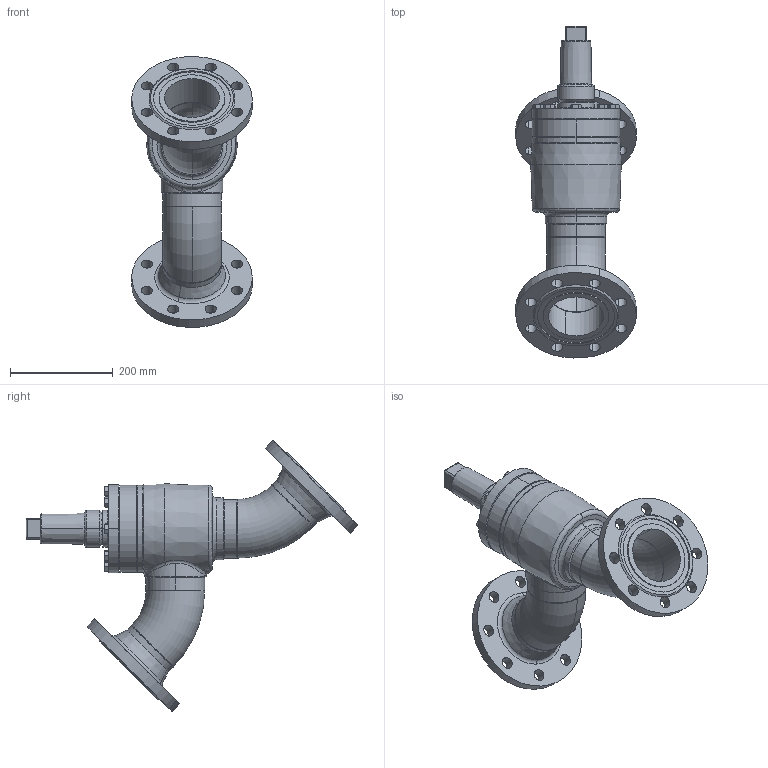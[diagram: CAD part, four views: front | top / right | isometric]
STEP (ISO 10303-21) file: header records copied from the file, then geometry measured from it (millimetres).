
FILE_DESCRIPTION (( 'STEP AP214' ), '1' );
FILE_NAME ('HRAB12320D19-DN100_DIN-FL-N_PS40.STEP', '2007-01-08T07:24:31', ( 'Herr Grams' ), ( 'AWP GmbH' ), 'SwSTEP 2.0', 'SolidWorks 2002296', '' );
FILE_SCHEMA (( 'AUTOMOTIVE_DESIGN' ));
Length unit declared in the file: millimetre
Products named in the file (17): HRAB12320D19-DN100_DIN-FL-N_PS40; AVB16300E19_Deck+Schr-DN100_Standard; Deckel16300E19-DN100_Standard; Sechskantschraube-DIN933_M12x 35; Kappe16402_DN080-100_Standard; Gehäuse-kpl16320-DN100_DIN_PS40_Standard; Gehäuse-kpl16300-DN100_R1_Standard; Gehäuse-kpl16400-DN100_R1_Standard; bead-DN100-1_Standard; Gehäuse16400-DN100_Standard; Kopfstück16300-DN100_Standard; Rohrbogen 45°_Rohrbogen-DN100-45°; bead-DN100-3_Standard; bead-DN100-2_Standard; bead-DN100-6_Standard; bead-DN100-7_Standard; Flansch-DIN-Nut_PS40_DIN-Flansch-DN100_PS40-Nut
Assembly tree (25 placements, depth 5):
  HRAB12320D19-DN100_DIN-FL-N_PS40
    AVB16300E19_Deck+Schr-DN100_Standard
      Deckel16300E19-DN100_Standard
      Sechskantschraube-DIN933_M12x 35  x8
    Gehäuse-kpl16320-DN100_DIN_PS40_Standard
      bead-DN100-6_Standard
      Flansch-DIN-Nut_PS40_DIN-Flansch-DN100_PS40-Nut  x2
      Gehäuse-kpl16300-DN100_R1_Standard
        bead-DN100-3_Standard
        bead-DN100-2_Standard
        Rohrbogen 45°_Rohrbogen-DN100-45°  x2
        Gehäuse-kpl16400-DN100_R1_Standard
          Kopfstück16300-DN100_Standard
          Gehäuse16400-DN100_Standard
          bead-DN100-1_Standard
      bead-DN100-7_Standard
    Kappe16402_DN080-100_Standard
Bounding box: 234.78 x 647.03 x 528.11 mm (x, y, z)
Volume: 4783706.4 mm3; surface area: 892744.5 mm2
Topology: 21 solids, 21 shells, 473 faces, 1054 edges, 641 vertices
Faces by surface type: cylinder 151, cone 142, plane 130, bspline 26, torus 24
Entity records: 21594 total; most frequent: CARTESIAN_POINT 14858, DIRECTION 1273, ORIENTED_EDGE 1148, EDGE_CURVE 574, AXIS2_PLACEMENT_3D 560, VERTEX_POINT 359, EDGE_LOOP 321, CIRCLE 300
